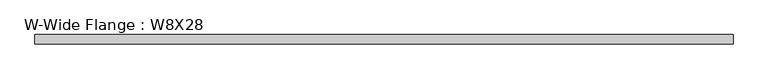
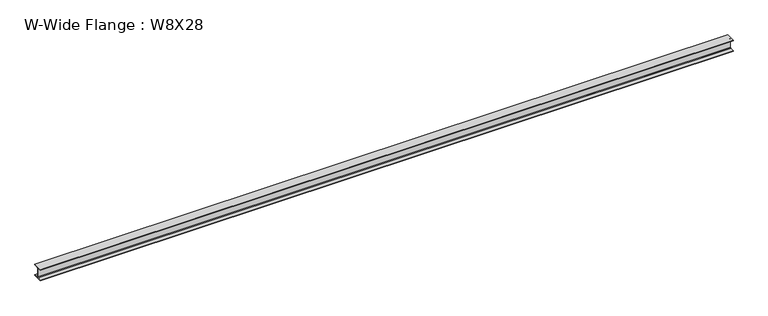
"""IFC4 building model written with IfcOpenShell, lengths in millimetres: beam geometry, W-Wide Flange : W8X28."""

from ifc_helpers import new_model, si_unit, point, frame, frame_2d, origin, place, context, project, spatial, polyline, circle_curve, trimmed, segment, composite_curve, outline, extrude, source, transform, mapped, element, save


def w_wide_flange_w8x28_78879cc6(model_context):
    return source(origin(), model_context, "Body", "SweptSolid", [
        extrude(outline(composite_curve([segment(polyline([(83.058, -90.551), (83.058, -102.362), (-83.058, -102.362), (-83.058, -90.551), (-15.621, -90.551)]), True, "CONTINUOUS"), segment(trimmed(circle_curve(frame_2d((-15.621, -78.5495)), 12.0015), [point((-15.621, -90.551))], [point((-3.6195, -78.5495))], True, "CARTESIAN"), True, "CONTINUOUS"), segment(polyline([(-3.6195, -78.5495), (-3.6195, 78.5495)]), True, "CONTINUOUS"), segment(trimmed(circle_curve(frame_2d((-15.621, 78.5495)), 12.0015), [point((-3.6195, 78.5495))], [point((-15.621, 90.551))], True, "CARTESIAN"), True, "CONTINUOUS"), segment(polyline([(-15.621, 90.551), (-83.058, 90.551), (-83.058, 102.362), (83.058, 102.362), (83.058, 90.551), (15.621, 90.551)]), True, "CONTINUOUS"), segment(trimmed(circle_curve(frame_2d((15.621, 78.5495)), 12.0015), [point((15.621, 90.551))], [point((3.6195, 78.5495))], True, "CARTESIAN"), True, "CONTINUOUS"), segment(polyline([(3.6195, 78.5495), (3.6195, -78.5495)]), True, "CONTINUOUS"), segment(trimmed(circle_curve(frame_2d((15.621, -78.5495)), 12.0015), [point((3.6195, -78.5495))], [point((15.621, -90.551))], True, "CARTESIAN"), True, "CONTINUOUS"), segment(polyline([(15.621, -90.551), (83.058, -90.551)]), True, "CONTINUOUS")], self_intersect=False)), frame((-6095.9995, 0.0, 0.0), z_axis=(1.0, 0.0, 0.0), x_axis=(0.0, 1.0, 0.0)), (0.0, 0.0, 1.0), 12191.999),
    ])


if __name__ == "__main__":
    model = new_model("IFC4")
    model_context = context("Model", 3, world=origin())
    ifc_project = project(units=[si_unit("LENGTHUNIT", "METRE", prefix="MILLI")], contexts=[model_context])
    site = spatial("IfcSite", under=ifc_project)
    building = spatial("IfcBuilding", under=site)
    placement = place(None, origin())
    w_wide_flange_w8x28_shape = w_wide_flange_w8x28_78879cc6(model_context)
    element("IfcBeam", 1, ObjectType="W-Wide Flange : W8X28", at=placement, inside=building, context=model_context, shape_type="MappedRepresentation", body=[
        mapped(w_wide_flange_w8x28_shape, transform((0.0, 0.0, 0.0), x_axis=(1.0, 0.0, 0.0), y_axis=(0.0, 1.0, 0.0), z_axis=(0.0, 0.0, 1.0))),
    ])
    save(model, "model.ifc")
